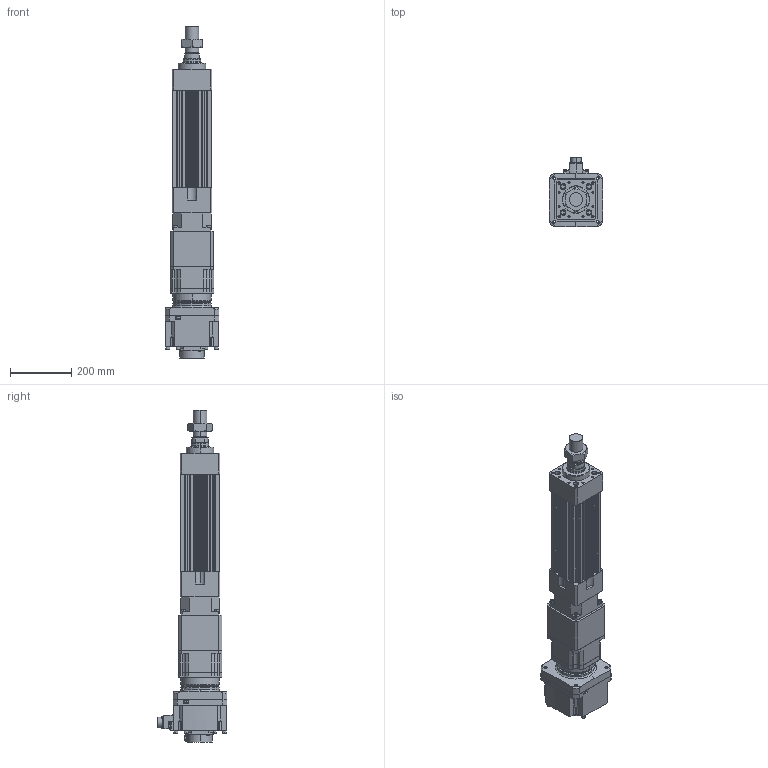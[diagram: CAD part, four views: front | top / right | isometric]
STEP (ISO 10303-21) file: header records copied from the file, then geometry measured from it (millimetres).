
FILE_DESCRIPTION (( 'STEP AP203' ), '1' );
FILE_NAME ('HES130FS(HS)-S100-W020G00-M.STEP', '2023-01-30T11:25:51', ( 'tms' ), ( '' ), 'SwSTEP 2.0', 'SolidWorks 2013', '' );
FILE_SCHEMA (( 'CONFIG_CONTROL_DESIGN' ));
Length unit declared in the file: millimetre
Products named in the file (9): HES130FS(HS)-S100-W020G00-M; P0403500801; AB142-003[HG-SR352]; HES130-S100-G142; HES130 ROD M ST100; AB1421; HG-SR202; M45X1.5P; P1301500001
Assembly tree (8 placements, depth 3):
  HES130FS(HS)-S100-W020G00-M
    HES130-S100-G142
    HES130 ROD M ST100
    M45X1.5P
    AB142-003[HG-SR352]
      AB1421
      P1301500001
      P0403500801
    HG-SR202
Bounding box: 176 x 228.85 x 1087.5 mm (x, y, z)
Volume: 9728800.7 mm3; surface area: 1194057 mm2
Topology: 4 solids, 22 shells, 1527 faces, 3928 edges, 2530 vertices
Faces by surface type: cylinder 683, plane 580, cone 182, bspline 76, torus 6
Entity records: 55214 total; most frequent: CARTESIAN_POINT 16756, DIRECTION 8052, ORIENTED_EDGE 7718, EDGE_CURVE 3881, AXIS2_PLACEMENT_3D 3043, VERTEX_POINT 2530, LINE 1966, VECTOR 1966
